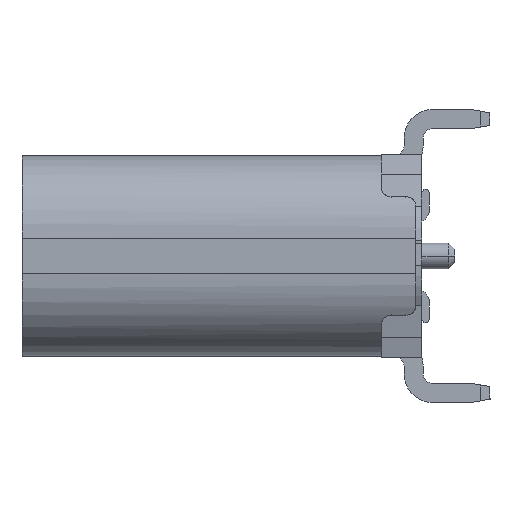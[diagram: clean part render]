
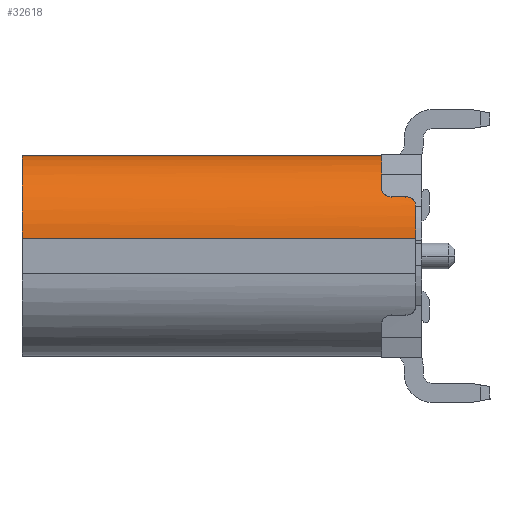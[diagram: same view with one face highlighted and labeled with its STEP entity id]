
A CAD part, left-side view. The second image highlights one B-rep face of the part: STEP entity #32618.
In plain terms, the highlighted cylindrical face has radius 1.3 mm (diameter 2.6 mm), a partial arc.
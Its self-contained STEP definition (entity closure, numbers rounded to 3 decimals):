
#305 = CARTESIAN_POINT ( 'NONE',  ( -4.35, 0.223, 0.827 ) ) ;
#360 = EDGE_CURVE ( 'NONE', #26569, #8994, #30653, .T. ) ;
#1302 = CARTESIAN_POINT ( 'NONE',  ( -4.227, 0.748, 1.037 ) ) ;
#1550 = CARTESIAN_POINT ( 'NONE',  ( -3.17, 6.523, 0.28 ) ) ;
#1689 = CARTESIAN_POINT ( 'NONE',  ( -4.242, 0.742, 1.015 ) ) ;
#1876 = CARTESIAN_POINT ( 'NONE',  ( -4.274, 0.706, 0.967 ) ) ;
#2127 = CARTESIAN_POINT ( 'NONE',  ( -4.47, 6.523, 0.28 ) ) ;
#3289 = DIRECTION ( 'NONE',  ( -1., 0., 0. ) ) ;
#4181 = CARTESIAN_POINT ( 'NONE',  ( -4.292, 0.649, 0.937 ) ) ;
#4248 = AXIS2_PLACEMENT_3D ( 'NONE', #6384, #24565, #3289 ) ;
#4381 = CIRCLE ( 'NONE', #26626, 1.3 ) ;
#4390 = CARTESIAN_POINT ( 'NONE',  ( -4.296, 0.6, 0.93 ) ) ;
#4690 = VERTEX_POINT ( 'NONE', #4390 ) ;
#6384 = CARTESIAN_POINT ( 'NONE',  ( -3.17, 0.22, 0.28 ) ) ;
#6497 = CARTESIAN_POINT ( 'NONE',  ( -4.298, 0.336, 0.927 ) ) ;
#6692 = CARTESIAN_POINT ( 'NONE',  ( -4.303, 0.304, 0.918 ) ) ;
#7175 = AXIS2_PLACEMENT_3D ( 'NONE', #33772, #10711, #37252 ) ;
#7304 = AXIS2_PLACEMENT_3D ( 'NONE', #27949, #12274, #19042 ) ;
#8672 = DIRECTION ( 'NONE',  ( 0., 1., 0. ) ) ;
#8801 = CARTESIAN_POINT ( 'NONE',  ( -4.47, 6.4, 0.28 ) ) ;
#8922 = EDGE_CURVE ( 'NONE', #27453, #4690, #19871, .T. ) ;
#8994 = VERTEX_POINT ( 'NONE', #10305 ) ;
#9264 = CARTESIAN_POINT ( 'NONE',  ( -4.22, 0.75, 1.047 ) ) ;
#9392 = CARTESIAN_POINT ( 'NONE',  ( -4.343, 0.228, 0.841 ) ) ;
#9571 = B_SPLINE_CURVE_WITH_KNOTS ( 'NONE', 3,
 ( #27995, #18903, #30705, #4181, #12895, #27793, #32900, #1876, #19085, #22188, #23974, #1689, #36526, #1302, #9264, #35798 ),
 .UNSPECIFIED., .F., .F.,
 ( 4, 3, 3, 3, 3, 4 ),
 ( 0., 0., 0., 0., 0., 0. ),
 .UNSPECIFIED. ) ;
#9849 = DIRECTION ( 'NONE',  ( 0., -1., 0. ) ) ;
#10305 = CARTESIAN_POINT ( 'NONE',  ( -3.788, 0.75, 1.424 ) ) ;
#10323 = ORIENTED_EDGE ( 'NONE', *, *, #27087, .T. ) ;
#10393 = CIRCLE ( 'NONE', #7304, 1.3 ) ;
#10524 = CARTESIAN_POINT ( 'NONE',  ( -3.17, 6.4, 0.28 ) ) ;
#10706 = ORIENTED_EDGE ( 'NONE', *, *, #34033, .T. ) ;
#10711 = DIRECTION ( 'NONE',  ( 0., 1., 0. ) ) ;
#11012 = LINE ( 'NONE', #32104, #25882 ) ;
#11620 = CYLINDRICAL_SURFACE ( 'NONE', #36293, 1.3 ) ;
#11727 = CARTESIAN_POINT ( 'NONE',  ( -4.296, 0.37, 0.93 ) ) ;
#12103 = CARTESIAN_POINT ( 'NONE',  ( -4.323, 0.252, 0.88 ) ) ;
#12274 = DIRECTION ( 'NONE',  ( 0., 1., 0. ) ) ;
#12895 = CARTESIAN_POINT ( 'NONE',  ( -4.289, 0.665, 0.942 ) ) ;
#13109 = CARTESIAN_POINT ( 'NONE',  ( -3.17, 0.75, 1.58 ) ) ;
#13587 = CARTESIAN_POINT ( 'NONE',  ( -4.363, 0.22, 0.796 ) ) ;
#14472 = EDGE_CURVE ( 'NONE', #23460, #27453, #14939, .T. ) ;
#14939 = B_SPLINE_CURVE_WITH_KNOTS ( 'NONE', 3,
 ( #23910, #36121, #305, #9392, #21385, #15009, #12103, #35735, #38274, #21200, #6692, #33021, #6497, #18483, #26422, #11727 ),
 .UNSPECIFIED., .F., .F.,
 ( 4, 3, 3, 3, 3, 4 ),
 ( 0., 0., 0., 0., 0., 0. ),
 .UNSPECIFIED. ) ;
#15009 = CARTESIAN_POINT ( 'NONE',  ( -4.329, 0.242, 0.869 ) ) ;
#16247 = DIRECTION ( 'NONE',  ( -1., 0., 0. ) ) ;
#17001 = ORIENTED_EDGE ( 'NONE', *, *, #36376, .T. ) ;
#17099 = ORIENTED_EDGE ( 'NONE', *, *, #36143, .T. ) ;
#17113 = VECTOR ( 'NONE', #31732, 1000. ) ;
#17228 = VERTEX_POINT ( 'NONE', #8801 ) ;
#18221 = EDGE_CURVE ( 'NONE', #4690, #26569, #9571, .T. ) ;
#18483 = CARTESIAN_POINT ( 'NONE',  ( -4.296, 0.347, 0.929 ) ) ;
#18903 = CARTESIAN_POINT ( 'NONE',  ( -4.296, 0.616, 0.93 ) ) ;
#19042 = DIRECTION ( 'NONE',  ( -1., 0., 0. ) ) ;
#19085 = CARTESIAN_POINT ( 'NONE',  ( -4.267, 0.718, 0.978 ) ) ;
#19871 = LINE ( 'NONE', #34595, #35311 ) ;
#20306 = ORIENTED_EDGE ( 'NONE', *, *, #14472, .T. ) ;
#21046 = CARTESIAN_POINT ( 'NONE',  ( -3.17, 6.4, 1.58 ) ) ;
#21200 = CARTESIAN_POINT ( 'NONE',  ( -4.307, 0.29, 0.91 ) ) ;
#21385 = CARTESIAN_POINT ( 'NONE',  ( -4.336, 0.234, 0.855 ) ) ;
#22113 = CARTESIAN_POINT ( 'NONE',  ( -4.213, 0.75, 1.056 ) ) ;
#22188 = CARTESIAN_POINT ( 'NONE',  ( -4.259, 0.727, 0.99 ) ) ;
#22312 = EDGE_LOOP ( 'NONE', ( #10323, #10706, #17099, #20306, #27234, #36416, #26538, #30534, #17001 ) ) ;
#22776 = CARTESIAN_POINT ( 'NONE',  ( -4.296, 0.37, 0.93 ) ) ;
#23460 = VERTEX_POINT ( 'NONE', #13587 ) ;
#23910 = CARTESIAN_POINT ( 'NONE',  ( -4.363, 0.22, 0.796 ) ) ;
#23974 = CARTESIAN_POINT ( 'NONE',  ( -4.251, 0.736, 1.002 ) ) ;
#24565 = DIRECTION ( 'NONE',  ( 0., 1., 0. ) ) ;
#25240 = DIRECTION ( 'NONE',  ( -1., 0., 0. ) ) ;
#25518 = VERTEX_POINT ( 'NONE', #21046 ) ;
#25882 = VECTOR ( 'NONE', #8672, 1000. ) ;
#26319 = FACE_OUTER_BOUND ( 'NONE', #22312, .T. ) ;
#26422 = CARTESIAN_POINT ( 'NONE',  ( -4.296, 0.358, 0.93 ) ) ;
#26538 = ORIENTED_EDGE ( 'NONE', *, *, #360, .T. ) ;
#26569 = VERTEX_POINT ( 'NONE', #22113 ) ;
#26626 = AXIS2_PLACEMENT_3D ( 'NONE', #10524, #37266, #25240 ) ;
#27087 = EDGE_CURVE ( 'NONE', #25518, #17228, #4381, .T. ) ;
#27234 = ORIENTED_EDGE ( 'NONE', *, *, #8922, .T. ) ;
#27400 = VERTEX_POINT ( 'NONE', #13109 ) ;
#27453 = VERTEX_POINT ( 'NONE', #22776 ) ;
#27793 = CARTESIAN_POINT ( 'NONE',  ( -4.285, 0.68, 0.949 ) ) ;
#27949 = CARTESIAN_POINT ( 'NONE',  ( -3.17, 0.75, 0.28 ) ) ;
#27995 = CARTESIAN_POINT ( 'NONE',  ( -4.296, 0.6, 0.93 ) ) ;
#28385 = CIRCLE ( 'NONE', #4248, 1.3 ) ;
#30534 = ORIENTED_EDGE ( 'NONE', *, *, #35467, .T. ) ;
#30653 = CIRCLE ( 'NONE', #7175, 1.3 ) ;
#30705 = CARTESIAN_POINT ( 'NONE',  ( -4.294, 0.633, 0.933 ) ) ;
#31732 = DIRECTION ( 'NONE',  ( 0., -1., 0. ) ) ;
#32104 = CARTESIAN_POINT ( 'NONE',  ( -3.17, 6.523, 1.58 ) ) ;
#32581 = CARTESIAN_POINT ( 'NONE',  ( -4.47, 0.22, 0.28 ) ) ;
#32618 = ADVANCED_FACE ( 'NONE', ( #26319 ), #11620, .T. ) ;
#32900 = CARTESIAN_POINT ( 'NONE',  ( -4.279, 0.693, 0.958 ) ) ;
#33021 = CARTESIAN_POINT ( 'NONE',  ( -4.3, 0.32, 0.923 ) ) ;
#33425 = VERTEX_POINT ( 'NONE', #32581 ) ;
#33772 = CARTESIAN_POINT ( 'NONE',  ( -3.17, 0.75, 0.28 ) ) ;
#34033 = EDGE_CURVE ( 'NONE', #17228, #33425, #34452, .T. ) ;
#34452 = LINE ( 'NONE', #2127, #17113 ) ;
#34595 = CARTESIAN_POINT ( 'NONE',  ( -4.296, 6.523, 0.93 ) ) ;
#35311 = VECTOR ( 'NONE', #37899, 1000. ) ;
#35467 = EDGE_CURVE ( 'NONE', #8994, #27400, #10393, .T. ) ;
#35735 = CARTESIAN_POINT ( 'NONE',  ( -4.317, 0.263, 0.892 ) ) ;
#35798 = CARTESIAN_POINT ( 'NONE',  ( -4.213, 0.75, 1.056 ) ) ;
#36121 = CARTESIAN_POINT ( 'NONE',  ( -4.357, 0.22, 0.811 ) ) ;
#36143 = EDGE_CURVE ( 'NONE', #33425, #23460, #28385, .T. ) ;
#36293 = AXIS2_PLACEMENT_3D ( 'NONE', #1550, #9849, #16247 ) ;
#36376 = EDGE_CURVE ( 'NONE', #27400, #25518, #11012, .T. ) ;
#36416 = ORIENTED_EDGE ( 'NONE', *, *, #18221, .T. ) ;
#36526 = CARTESIAN_POINT ( 'NONE',  ( -4.233, 0.746, 1.028 ) ) ;
#37252 = DIRECTION ( 'NONE',  ( -1., 0., 0. ) ) ;
#37266 = DIRECTION ( 'NONE',  ( 0., -1., 0. ) ) ;
#37899 = DIRECTION ( 'NONE',  ( 0., 1., 0. ) ) ;
#38274 = CARTESIAN_POINT ( 'NONE',  ( -4.312, 0.276, 0.902 ) ) ;
